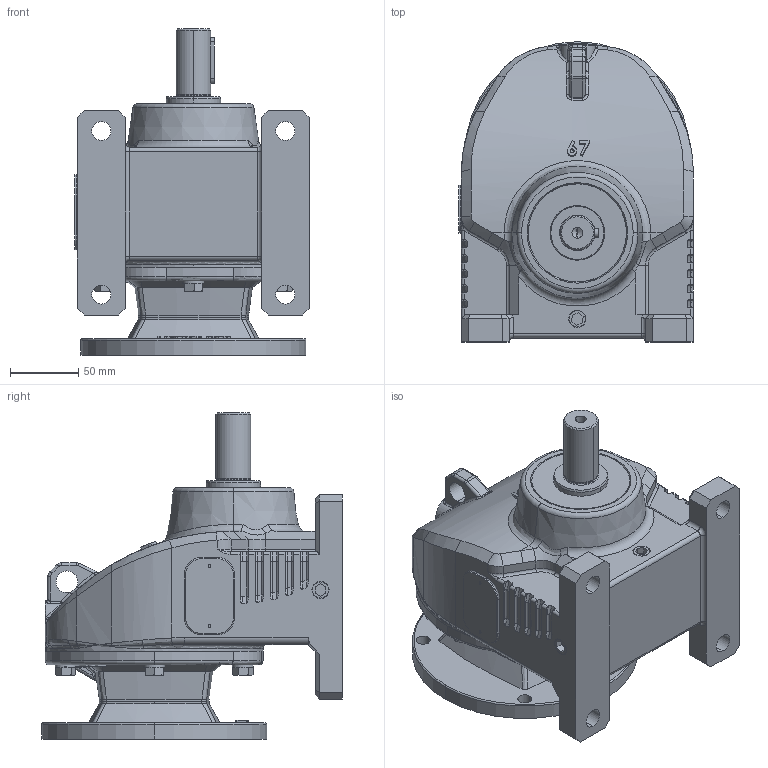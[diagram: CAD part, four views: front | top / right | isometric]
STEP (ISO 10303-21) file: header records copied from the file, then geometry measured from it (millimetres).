
FILE_DESCRIPTION (( 'STEP AP203' ), '1' );
FILE_NAME ('RX067HF-143TC.STEP', '2015-03-16T05:27:54', ( 'user' ), ( '' ), 'SwSTEP 2.0', 'SolidWorks 2012', '' );
FILE_SCHEMA (( 'CONFIG_CONTROL_DESIGN' ));
Length unit declared in the file: millimetre
Products named in the file (27): RX067HF-143TC; JSPC025032005; PCA021_B27.7M - 3AM1-21; PBA6305; PJB02; PKD0606015S; PKD1_4033; PSS040072101; PCB072_JIS B 2804 Hole use 72; PCA030; PBA6306; KEGX067_成大修改; JKGB06799L_JKGB06799L; 067ªkÄõ¤J¤O²Õ¦X143T_1HP-¡í14; PJB01; P102_JKGA1419R; PCA014_PCA014; PKD0404015; PTBA08025; PWS08_PWS08; PSS040055081; PBA6008_PBA6008; PTAA08030; KNGH143T14_KNGH143T14; KFGG143T; JHGA06701; JCHX067
Assembly tree (40 placements, depth 3):
  RX067HF-143TC
    JCHX067
    067ªkÄõ¤J¤O²Õ¦X143T_1HP-¡í14
      JHGA06701
      KFGG143T
      KNGH143T14_KNGH143T14
      PTAA08030  x4
      PBA6008_PBA6008  x2
      PSS040055081
      PWS08_PWS08  x4
      PTBA08025  x4
      PKD0404015
      PCA014_PCA014
      P102_JKGA1419R
      PJB01
    JKGB06799L_JKGB06799L
    KEGX067_成大修改
    PBA6306
    PCA030
    PCB072_JIS B 2804 Hole use 72
    PSS040072101
    PKD1_4033
    PKD0606015S
    PJB02  x5
    PBA6305
    PCA021_B27.7M - 3AM1-21
    JSPC025032005
Bounding box: 172 x 220.55 x 239.5 mm (x, y, z)
Volume: 1892500.1 mm3; surface area: 544155.2 mm2
Topology: 39 solids, 39 shells, 1928 faces, 5396 edges, 3409 vertices
Faces by surface type: cylinder 585, plane 571, torus 277, bspline 200, cone 187, sphere 108
Entity records: 70349 total; most frequent: CARTESIAN_POINT 27091, ORIENTED_EDGE 8796, DIRECTION 7962, EDGE_CURVE 4398, AXIS2_PLACEMENT_3D 3197, VERTEX_POINT 2805, EDGE_LOOP 1845, CIRCLE 1690
